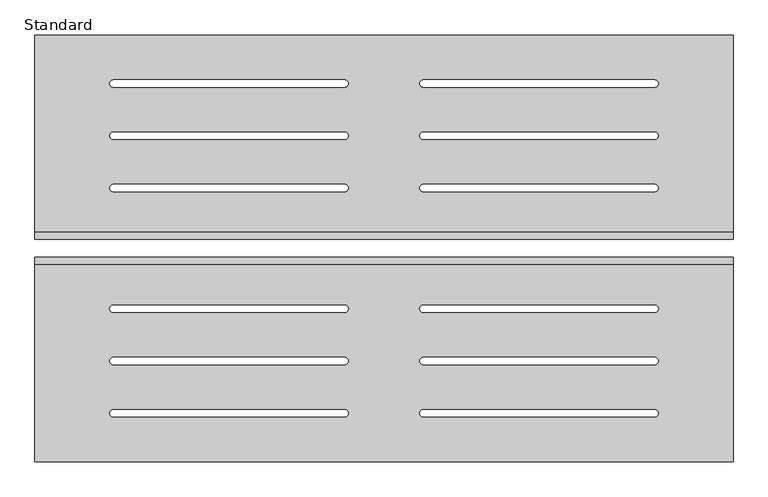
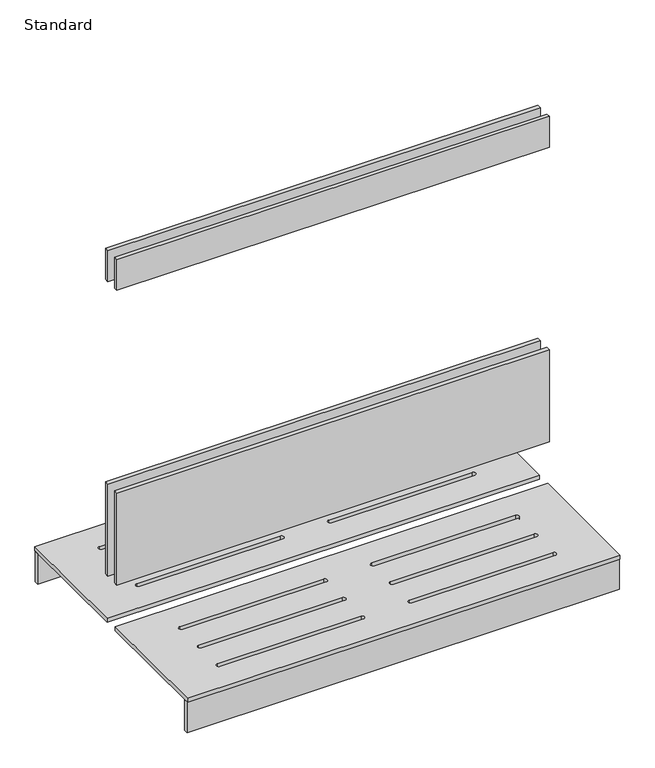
"""IFC4 building model written with IfcOpenShell, lengths in millimetres: furniture geometry, X_Bench-Island-Duracube-Standard : Standard."""

import ifcopenshell
import ifcopenshell.guid

model = None  # the IFC model being written
_history = None  # IfcOwnerHistory: only IFC2X3 demands one
_inside = {}  # id of a spatial element -> (the spatial element, [elements in it])
_under = {}  # id of a project, library or spatial element -> (it, [spatial elements below it])
_declared = {}  # id of a project -> (the project, [libraries it declares])
_typed = {}  # id of a type object -> (the type object, [elements of that type])
_made_of = {}  # id of a material, layer set ... -> (it, [elements and type objects made of it])


def new_model(schema):
    """Start an empty IFC model of exactly this schema.

    Asked for "IFC4X3", IfcOpenShell would pick the latest addendum, in which some entities
    have other attributes; the version numbers below select the first issue.
    IFC2X3 requires an IfcOwnerHistory on every rooted entity: one is made here for all.
    """
    global model, _history
    if schema == "IFC4X3":
        model = ifcopenshell.file(schema_version=(4, 3, 0, 0))
    else:
        model = ifcopenshell.file(schema=schema)
    _inside.clear()
    _under.clear()
    _declared.clear()
    _typed.clear()
    _made_of.clear()
    _history = None
    if model.schema == "IFC2X3":
        org = make("IfcOrganization", Name="unknown")
        user = make(
            "IfcPersonAndOrganization",
            ThePerson=make("IfcPerson", FamilyName="unknown"),
            TheOrganization=org,
        )
        app = make(
            "IfcApplication",
            ApplicationDeveloper=org,
            Version="unknown",
            ApplicationFullName="unknown",
            ApplicationIdentifier="unknown",
        )
        _history = make(
            "IfcOwnerHistory",
            OwningUser=user,
            OwningApplication=app,
            ChangeAction="ADDED",
            CreationDate=0,
        )
    return model


def make(cls, **values):
    """One entity of the class cls with the attributes given. An attribute that is None is left unset."""
    return model.create_entity(
        cls, **{name: value for name, value in values.items() if value is not None}
    )


def rooted(cls, **values):
    """An entity with a GlobalId (a new one), such as an element, a storey or a relation."""
    return make(cls, GlobalId=ifcopenshell.guid.new(), OwnerHistory=_history, **values)


def si_unit(unit_type, name, prefix=None):
    """IfcSIUnit, for example si_unit("LENGTHUNIT", "METRE", prefix="MILLI")."""
    return make("IfcSIUnit", UnitType=unit_type, Prefix=prefix, Name=name)


def assignment(units):
    """IfcUnitAssignment: the units of a project."""
    return None if units is None else make("IfcUnitAssignment", Units=units)


def point(xyz):
    """IfcCartesianPoint."""
    return None if xyz is None else make("IfcCartesianPoint", Coordinates=xyz)


def direction(xyz):
    """IfcDirection."""
    return None if xyz is None else make("IfcDirection", DirectionRatios=xyz)


def frame(location, z_axis=None, x_axis=None):
    """IfcAxis2Placement3D, a coordinate frame: its origin and axes. An axis left out is left unset."""
    return make(
        "IfcAxis2Placement3D",
        Location=point(location),
        Axis=direction(z_axis),
        RefDirection=direction(x_axis),
    )


def frame_2d(location, x_axis=None):
    """IfcAxis2Placement2D, a coordinate frame in the plane: its origin and x axis."""
    return make(
        "IfcAxis2Placement2D", Location=point(location), RefDirection=direction(x_axis)
    )


def origin():
    """The frame at (0, 0, 0) with its axes left unset."""
    return frame((0.0, 0.0, 0.0))


def place(relative_to, where):
    """IfcLocalPlacement: puts the frame where relative to a parent placement (None: the world)."""
    return make(
        "IfcLocalPlacement", PlacementRelTo=relative_to, RelativePlacement=where
    )


def context(
    kind, dimensions, precision=None, world=None, true_north=None, identifier=None
):
    """IfcGeometricRepresentationContext, for example the 3D "Model" context."""
    return make(
        "IfcGeometricRepresentationContext",
        ContextIdentifier=identifier,
        ContextType=kind,
        CoordinateSpaceDimension=dimensions,
        Precision=precision,
        WorldCoordinateSystem=world,
        TrueNorth=true_north,
    )


def project(units=None, contexts=None):
    """IfcProject with its units and contexts."""
    return rooted(
        "IfcProject",
        Name="project",
        RepresentationContexts=contexts,
        UnitsInContext=assignment(units),
    )


def spatial(cls, under=None, at=None, **own):
    """A site, building, storey or space (cls), placed at a placement, below another one or the project."""
    s = rooted(cls, ObjectPlacement=at, **own)
    if under is not None:
        _under.setdefault(under.id(), (under, []))[1].append(s)
    return s


def polyline(points):
    """IfcPolyline through the points."""
    return make("IfcPolyline", Points=[point(p) for p in points])


def circle_curve(where, radius):
    """IfcCircle in the frame where."""
    return make("IfcCircle", Position=where, Radius=radius)


def trimmed(basis, trim1, trim2, sense, master):
    """IfcTrimmedCurve: the piece of a basis curve between two trims."""
    return make(
        "IfcTrimmedCurve",
        BasisCurve=basis,
        Trim1=trim1,
        Trim2=trim2,
        SenseAgreement=sense,
        MasterRepresentation=master,
    )


def segment(curve, same_sense, transition):
    """IfcCompositeCurveSegment."""
    return make(
        "IfcCompositeCurveSegment",
        Transition=transition,
        SameSense=same_sense,
        ParentCurve=curve,
    )


def composite_curve(segments, self_intersect=None):
    """IfcCompositeCurve: segments joined end to end."""
    return make("IfcCompositeCurve", Segments=segments, SelfIntersect=self_intersect)


def outline(outer, holes=None, kind="AREA"):
    """IfcArbitraryClosedProfileDef: a profile drawn as a closed curve; with holes, ...WithVoids."""
    if holes is None:
        return make("IfcArbitraryClosedProfileDef", ProfileType=kind, OuterCurve=outer)
    return make(
        "IfcArbitraryProfileDefWithVoids",
        ProfileType=kind,
        OuterCurve=outer,
        InnerCurves=holes,
    )


def extrude(swept, where, along, depth):
    """IfcExtrudedAreaSolid: the profile swept, set in the frame where, extruded along a direction by depth."""
    return make(
        "IfcExtrudedAreaSolid",
        SweptArea=swept,
        Position=where,
        ExtrudedDirection=direction(along),
        Depth=depth,
    )


def shape(context_of_items, identifier, shape_type, items):
    """IfcShapeRepresentation: the items that make up one representation, for example the "Body"."""
    return make(
        "IfcShapeRepresentation",
        ContextOfItems=context_of_items,
        RepresentationIdentifier=identifier,
        RepresentationType=shape_type,
        Items=items,
    )


def source(mapping_origin, context_of_items, identifier, shape_type, items):
    """IfcRepresentationMap: a shape defined once, which mapped items show again and again."""
    return make(
        "IfcRepresentationMap",
        MappingOrigin=mapping_origin,
        MappedRepresentation=shape(context_of_items, identifier, shape_type, items),
    )


def transform(
    local_origin,
    x_axis=None,
    y_axis=None,
    z_axis=None,
    scale=None,
    scale2=None,
    scale3=None,
    uniform=True,
):
    """IfcCartesianTransformationOperator3D, or its non-uniform kind. x_axis, y_axis, z_axis: its Axis1, 2, 3."""
    if uniform:
        return make(
            "IfcCartesianTransformationOperator3D",
            Axis1=direction(x_axis),
            Axis2=direction(y_axis),
            LocalOrigin=point(local_origin),
            Scale=scale,
            Axis3=direction(z_axis),
        )
    return make(
        "IfcCartesianTransformationOperator3DnonUniform",
        Axis1=direction(x_axis),
        Axis2=direction(y_axis),
        LocalOrigin=point(local_origin),
        Scale=scale,
        Axis3=direction(z_axis),
        Scale2=scale2,
        Scale3=scale3,
    )


def mapped(mapping_source, mapping_target):
    """IfcMappedItem: shows the shape of a source again, moved by a transform."""
    return make(
        "IfcMappedItem", MappingSource=mapping_source, MappingTarget=mapping_target
    )


def made_of(thing, what):
    """Note that an element or type object is made of a material, layer set ...; save() writes the relation."""
    if what is not None:
        _made_of.setdefault(what.id(), (what, []))[1].append(thing)
    return thing


def element(
    cls,
    number,
    at=None,
    inside=None,
    cuts=None,
    type_object=None,
    material=None,
    context=None,
    identifier="Body",
    shape_type=None,
    held_by="IfcProductDefinitionShape",
    body=None,
    shapes=None,
    **own,
):
    """One element of the class cls, such as IfcWall. Its Tag is "e" and its number.

    at: its placement. inside: the storey or other place that contains it. cuts: it is an
    opening in that element (IfcRelVoidsElement). A single representation is given by context,
    identifier, shape_type and body (its items); several are given by shapes. held_by: the class
    of the entity that holds the representations. save() writes the other relations.
    """
    e = rooted(cls, Tag="e%d" % number, ObjectPlacement=at, **own)
    if body is not None:
        shapes = [shape(context, identifier, shape_type, body)]
    if shapes is not None:
        e.Representation = make(held_by, Representations=shapes)
    if inside is not None:
        _inside.setdefault(inside.id(), (inside, []))[1].append(e)
    if cuts is not None:
        rooted(
            "IfcRelVoidsElement", RelatingBuildingElement=cuts, RelatedOpeningElement=e
        )
    if type_object is not None:
        _typed.setdefault(type_object.id(), (type_object, []))[1].append(e)
    return made_of(e, material)


def aggregate(whole, parts):
    """IfcRelAggregates: a whole, such as a stair, and the parts it consists of."""
    return rooted("IfcRelAggregates", RelatingObject=whole, RelatedObjects=parts)


def save(model, path):
    """Write the relations noted so far, then the file.

    IfcRelAggregates (storeys below a building ...), IfcRelContainedInSpatialStructure (elements
    in a storey), IfcRelDefinesByType, IfcRelAssociatesMaterial and IfcRelDeclares: one each for
    every whole, place, type object, material and project.
    """
    for whole, parts in _under.values():
        aggregate(whole, parts)
    for where, things in _inside.values():
        rooted(
            "IfcRelContainedInSpatialStructure",
            RelatedElements=things,
            RelatingStructure=where,
        )
    for kind, things in _typed.values():
        rooted("IfcRelDefinesByType", RelatedObjects=things, RelatingType=kind)
    for what, things in _made_of.values():
        rooted("IfcRelAssociatesMaterial", RelatedObjects=things, RelatingMaterial=what)
    for by, libraries in _declared.values():
        rooted("IfcRelDeclares", RelatingContext=by, RelatedDefinitions=libraries)
    model.write(path)


def standard_9dd12805(model_context):
    return source(origin(), model_context, "Body", "SweptSolid", [
        extrude(outline(polyline([(711.3669931, -377.0), (711.3669931, -390.0), (-621.9663402, -390.0), (-621.9663402, -377.0), (711.3669931, -377.0)])), frame((0.0, 0.0, 1570.0), z_axis=(0.0, 0.0, 1.0), x_axis=(1.0, 0.0, 0.0)), (0.0, 0.0, 1.0), 100.0),
        extrude(outline(polyline([(711.3669931, -425.0), (711.3669931, -438.0), (-621.9663402, -438.0), (-621.9663402, -425.0), (711.3669931, -425.0)])), frame((0.0, 0.0, 1570.0), z_axis=(0.0, 0.0, 1.0), x_axis=(1.0, 0.0, 0.0)), (0.0, 0.0, 1.0), 100.0),
        extrude(outline(polyline([(711.3669931, -2.5), (711.3669931, -15.5), (-621.9663402, -15.5), (-621.9663402, -2.5), (711.3669931, -2.5)])), frame((0.0, 0.0, 357.0), z_axis=(0.0, 0.0, 1.0), x_axis=(1.0, 0.0, 0.0)), (0.0, 0.0, 1.0), 100.0),
        extrude(outline(polyline([(711.3669931, -799.5), (711.3669931, -812.5), (-621.9663402, -812.5), (-621.9663402, -799.5), (711.3669931, -799.5)])), frame((0.0, 0.0, 357.0), z_axis=(0.0, 0.0, 1.0), x_axis=(1.0, 0.0, 0.0)), (0.0, 0.0, 1.0), 100.0),
        extrude(outline(polyline([(711.3669931, -425.0), (711.3669931, -438.0), (-621.9663402, -438.0), (-621.9663402, -425.0), (711.3669931, -425.0)])), frame((0.0, 0.0, 610.0), z_axis=(0.0, 0.0, 1.0), x_axis=(1.0, 0.0, 0.0)), (0.0, 0.0, 1.0), 300.0),
        extrude(outline(polyline([(711.3669931, -377.0), (711.3669931, -390.0), (-621.9663402, -390.0), (-621.9663402, -377.0), (711.3669931, -377.0)])), frame((0.0, 0.0, 610.0), z_axis=(0.0, 0.0, 1.0), x_axis=(1.0, 0.0, 0.0)), (0.0, 0.0, 1.0), 300.0),
        extrude(outline(polyline([(711.3669931, 0.0), (711.3669931, -385.0), (-621.9663402, -385.0), (-621.9663402, 0.0), (711.3669931, 0.0)]), holes=[composite_curve([segment(polyline([(-30.2996736, -85.75), (-471.9663402, -85.75)]), True, "CONTINUOUS"), segment(trimmed(circle_curve(frame_2d((-471.9663402, -92.75)), 7.0), [point((-471.9663402, -85.75))], [point((-471.9663402, -99.75))], True, "CARTESIAN"), True, "CONTINUOUS"), segment(polyline([(-471.9663402, -99.75), (-30.2996736, -99.75)]), True, "CONTINUOUS"), segment(trimmed(circle_curve(frame_2d((-30.2996736, -92.75)), 7.0), [point((-30.2996736, -99.75))], [point((-30.2996736, -85.75))], True, "CARTESIAN"), True, "CONTINUOUS")], self_intersect=False), composite_curve([segment(polyline([(-30.2996736, -185.5), (-471.9663402, -185.5)]), True, "CONTINUOUS"), segment(trimmed(circle_curve(frame_2d((-471.9663402, -192.5)), 7.0), [point((-471.9663402, -185.5))], [point((-471.9663402, -199.5))], True, "CARTESIAN"), True, "CONTINUOUS"), segment(polyline([(-471.9663402, -199.5), (-30.2996736, -199.5)]), True, "CONTINUOUS"), segment(trimmed(circle_curve(frame_2d((-30.2996736, -192.5)), 7.0), [point((-30.2996736, -199.5))], [point((-30.2996736, -185.5))], True, "CARTESIAN"), True, "CONTINUOUS")], self_intersect=False), composite_curve([segment(polyline([(-30.2996736, -285.25), (-471.9663402, -285.25)]), True, "CONTINUOUS"), segment(trimmed(circle_curve(frame_2d((-471.9663402, -292.25)), 7.0), [point((-471.9663402, -285.25))], [point((-471.9663402, -299.25))], True, "CARTESIAN"), True, "CONTINUOUS"), segment(polyline([(-471.9663402, -299.25), (-30.2996736, -299.25)]), True, "CONTINUOUS"), segment(trimmed(circle_curve(frame_2d((-30.2996736, -292.25)), 7.0), [point((-30.2996736, -299.25))], [point((-30.2996736, -285.25))], True, "CARTESIAN"), True, "CONTINUOUS")], self_intersect=False), composite_curve([segment(polyline([(561.3669931, -85.75), (119.7003264, -85.75)]), True, "CONTINUOUS"), segment(trimmed(circle_curve(frame_2d((119.7003264, -92.75)), 7.0), [point((119.7003264, -85.75))], [point((119.7003264, -99.75))], True, "CARTESIAN"), True, "CONTINUOUS"), segment(polyline([(119.7003264, -99.75), (561.3669931, -99.75)]), True, "CONTINUOUS"), segment(trimmed(circle_curve(frame_2d((561.3669931, -92.75)), 7.0), [point((561.3669931, -99.75))], [point((561.3669931, -85.75))], True, "CARTESIAN"), True, "CONTINUOUS")], self_intersect=False), composite_curve([segment(polyline([(561.3669931, -185.5), (119.7003264, -185.5)]), True, "CONTINUOUS"), segment(trimmed(circle_curve(frame_2d((119.7003264, -192.5)), 7.0), [point((119.7003264, -185.5))], [point((119.7003264, -199.5))], True, "CARTESIAN"), True, "CONTINUOUS"), segment(polyline([(119.7003264, -199.5), (561.3669931, -199.5)]), True, "CONTINUOUS"), segment(trimmed(circle_curve(frame_2d((561.3669931, -192.5)), 7.0), [point((561.3669931, -199.5))], [point((561.3669931, -185.5))], True, "CARTESIAN"), True, "CONTINUOUS")], self_intersect=False), composite_curve([segment(polyline([(561.3669931, -285.25), (119.7003264, -285.25)]), True, "CONTINUOUS"), segment(trimmed(circle_curve(frame_2d((119.7003264, -292.25)), 7.0), [point((119.7003264, -285.25))], [point((119.7003264, -299.25))], True, "CARTESIAN"), True, "CONTINUOUS"), segment(polyline([(119.7003264, -299.25), (561.3669931, -299.25)]), True, "CONTINUOUS"), segment(trimmed(circle_curve(frame_2d((561.3669931, -292.25)), 7.0), [point((561.3669931, -299.25))], [point((561.3669931, -285.25))], True, "CARTESIAN"), True, "CONTINUOUS")], self_intersect=False)]), frame((0.0, 0.0, 457.0), z_axis=(0.0, 0.0, 1.0), x_axis=(1.0, 0.0, 0.0)), (0.0, 0.0, 1.0), 13.0),
        extrude(outline(polyline([(711.3669931, -815.0), (-621.9663402, -815.0), (-621.9663402, -430.0), (711.3669931, -430.0), (711.3669931, -815.0)]), holes=[composite_curve([segment(polyline([(-30.2996736, -515.75), (-471.9663402, -515.75)]), True, "CONTINUOUS"), segment(trimmed(circle_curve(frame_2d((-471.9663402, -522.75)), 7.0), [point((-471.9663402, -515.75))], [point((-471.9663402, -529.75))], True, "CARTESIAN"), True, "CONTINUOUS"), segment(polyline([(-471.9663402, -529.75), (-30.2996736, -529.75)]), True, "CONTINUOUS"), segment(trimmed(circle_curve(frame_2d((-30.2996736, -522.75)), 7.0), [point((-30.2996736, -529.75))], [point((-30.2996736, -515.75))], True, "CARTESIAN"), True, "CONTINUOUS")], self_intersect=False), composite_curve([segment(polyline([(-30.2996736, -615.5), (-471.9663402, -615.5)]), True, "CONTINUOUS"), segment(trimmed(circle_curve(frame_2d((-471.9663402, -622.5)), 7.0), [point((-471.9663402, -615.5))], [point((-471.9663402, -629.5))], True, "CARTESIAN"), True, "CONTINUOUS"), segment(polyline([(-471.9663402, -629.5), (-30.2996736, -629.5)]), True, "CONTINUOUS"), segment(trimmed(circle_curve(frame_2d((-30.2996736, -622.5)), 7.0), [point((-30.2996736, -629.5))], [point((-30.2996736, -615.5))], True, "CARTESIAN"), True, "CONTINUOUS")], self_intersect=False), composite_curve([segment(polyline([(-30.2996736, -715.25), (-471.9663402, -715.25)]), True, "CONTINUOUS"), segment(trimmed(circle_curve(frame_2d((-471.9663402, -722.25)), 7.0), [point((-471.9663402, -715.25))], [point((-471.9663402, -729.25))], True, "CARTESIAN"), True, "CONTINUOUS"), segment(polyline([(-471.9663402, -729.25), (-30.2996736, -729.25)]), True, "CONTINUOUS"), segment(trimmed(circle_curve(frame_2d((-30.2996736, -722.25)), 7.0), [point((-30.2996736, -729.25))], [point((-30.2996736, -715.25))], True, "CARTESIAN"), True, "CONTINUOUS")], self_intersect=False), composite_curve([segment(polyline([(561.3669931, -515.75), (119.7003264, -515.75)]), True, "CONTINUOUS"), segment(trimmed(circle_curve(frame_2d((119.7003264, -522.75)), 7.0), [point((119.7003264, -515.75))], [point((119.7003264, -529.75))], True, "CARTESIAN"), True, "CONTINUOUS"), segment(polyline([(119.7003264, -529.75), (561.3669931, -529.75)]), True, "CONTINUOUS"), segment(trimmed(circle_curve(frame_2d((561.3669931, -522.75)), 7.0), [point((561.3669931, -529.75))], [point((561.3669931, -515.75))], True, "CARTESIAN"), True, "CONTINUOUS")], self_intersect=False), composite_curve([segment(polyline([(561.3669931, -615.5), (119.7003264, -615.5)]), True, "CONTINUOUS"), segment(trimmed(circle_curve(frame_2d((119.7003264, -622.5)), 7.0), [point((119.7003264, -615.5))], [point((119.7003264, -629.5))], True, "CARTESIAN"), True, "CONTINUOUS"), segment(polyline([(119.7003264, -629.5), (561.3669931, -629.5)]), True, "CONTINUOUS"), segment(trimmed(circle_curve(frame_2d((561.3669931, -622.5)), 7.0), [point((561.3669931, -629.5))], [point((561.3669931, -615.5))], True, "CARTESIAN"), True, "CONTINUOUS")], self_intersect=False), composite_curve([segment(polyline([(561.3669931, -715.25), (119.7003264, -715.25)]), True, "CONTINUOUS"), segment(trimmed(circle_curve(frame_2d((119.7003264, -722.25)), 7.0), [point((119.7003264, -715.25))], [point((119.7003264, -729.25))], True, "CARTESIAN"), True, "CONTINUOUS"), segment(polyline([(119.7003264, -729.25), (561.3669931, -729.25)]), True, "CONTINUOUS"), segment(trimmed(circle_curve(frame_2d((561.3669931, -722.25)), 7.0), [point((561.3669931, -729.25))], [point((561.3669931, -715.25))], True, "CARTESIAN"), True, "CONTINUOUS")], self_intersect=False)]), frame((0.0, 0.0, 457.0), z_axis=(0.0, 0.0, 1.0), x_axis=(1.0, 0.0, 0.0)), (0.0, 0.0, 1.0), 13.0),
    ])


if __name__ == "__main__":
    model = new_model("IFC4")
    model_context = context("Model", 3, world=origin())
    ifc_project = project(units=[si_unit("LENGTHUNIT", "METRE", prefix="MILLI")], contexts=[model_context])
    site = spatial("IfcSite", under=ifc_project)
    building = spatial("IfcBuilding", under=site)
    placement = place(None, origin())
    standard_shape = standard_9dd12805(model_context)
    element("IfcFurniture", 1, ObjectType="X_Bench-Island-Duracube-Standard : Standard", at=placement, inside=building, context=model_context, shape_type="MappedRepresentation", body=[
        mapped(standard_shape, transform((0.0, 0.0, 0.0), x_axis=(1.0, 0.0, 0.0), y_axis=(0.0, 1.0, 0.0), z_axis=(0.0, 0.0, 1.0))),
    ])
    save(model, "model.ifc")
